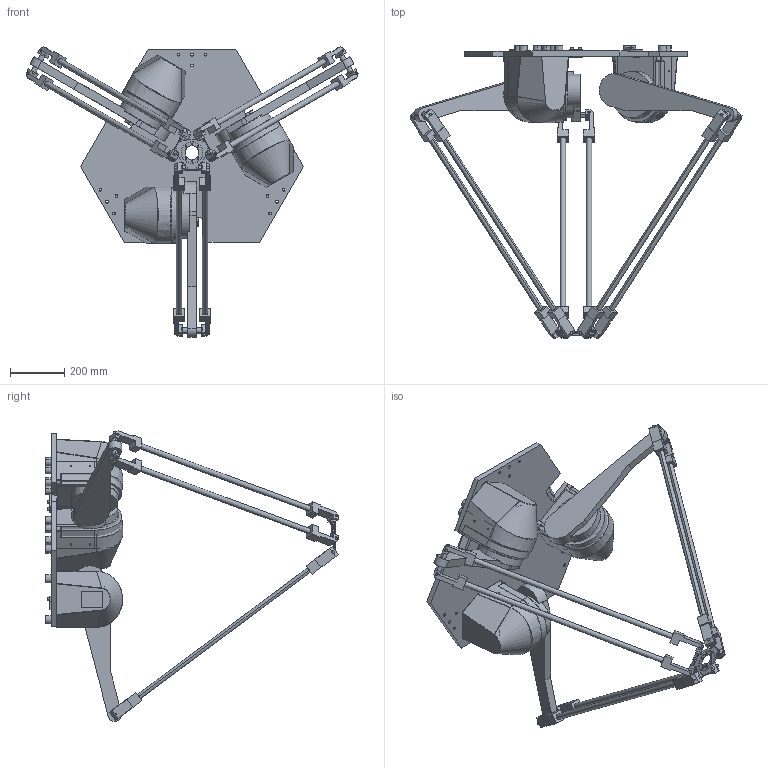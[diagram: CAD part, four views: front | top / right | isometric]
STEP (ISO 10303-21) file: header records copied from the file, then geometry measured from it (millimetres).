
FILE_DESCRIPTION((''),'2;1');
FILE_NAME('A2000702_ASM','2025-01-08T10:01:10',('SongJiHoon'),(''),'CREO PARAMETRIC BY PTC INC, 2023352','CREO PARAMETRIC BY PTC INC, 2023352','');
FILE_SCHEMA(('CONFIG_CONTROL_DESIGN'));
Length unit declared in the file: millimetre
Products named in the file (8): 3DSTEP-1; 3DSTEP-2; 3DSTEP-3_0313N; 3DSTEP-4; 3DSTEP-5_0313N; 3DSTEP-6; 3DSTEP-7_STANDARD_TYPE; A2000702_ASM
Assembly tree (20 placements, depth 2):
  A2000702_ASM
    3DSTEP-1
    3DSTEP-2  x3
    3DSTEP-3_0313N  x3
    3DSTEP-4  x3
    3DSTEP-5_0313N  x6
    3DSTEP-6  x3
    3DSTEP-7_STANDARD_TYPE
Bounding box: 1220.1 x 1075.56 x 1067.56 mm (x, y, z)
Volume: 34845814.2 mm3; surface area: 3440690.7 mm2
Topology: 20 solids, 36 shells, 786 faces, 2013 edges, 1336 vertices
Faces by surface type: plane 436, cylinder 311, bspline 24, cone 9, extrusion 6
Entity records: 13510 total; most frequent: CARTESIAN_POINT 3641, DIRECTION 2154, ORIENTED_EDGE 1874, EDGE_CURVE 969, AXIS2_PLACEMENT_3D 806, VERTEX_POINT 640, VECTOR 542, LINE 540
